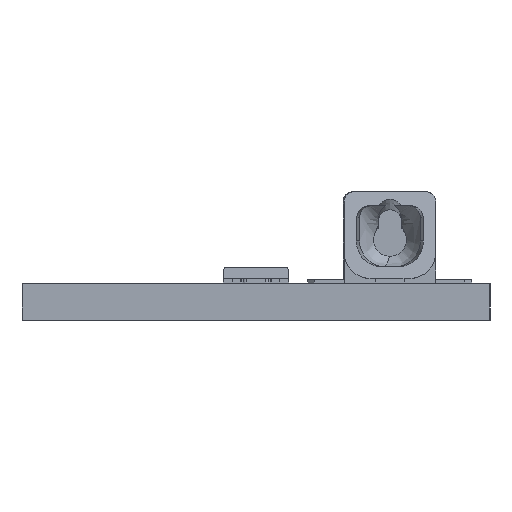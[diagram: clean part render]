
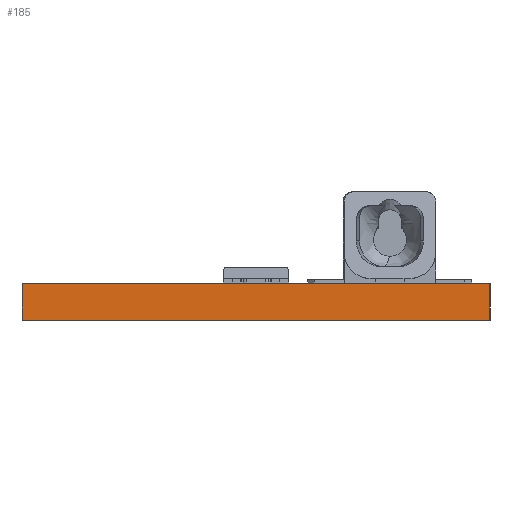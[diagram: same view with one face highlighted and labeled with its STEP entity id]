
A CAD part, left-side view. The second image highlights one B-rep face of the part: STEP entity #185.
In plain terms, the highlighted planar face has unit normal (-1, 0, 0).
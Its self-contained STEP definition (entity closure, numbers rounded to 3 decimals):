
#185 = ADVANCED_FACE('',(#186),#220,.F.);
#186 = FACE_BOUND('',#187,.F.);
#187 = EDGE_LOOP('',(#188,#198,#206,#214));
#188 = ORIENTED_EDGE('',*,*,#189,.T.);
#189 = EDGE_CURVE('',#190,#192,#194,.T.);
#190 = VERTEX_POINT('',#191);
#191 = CARTESIAN_POINT('',(0.,20.,0.));
#192 = VERTEX_POINT('',#193);
#193 = CARTESIAN_POINT('',(0.,20.,1.56));
#194 = LINE('',#195,#196);
#195 = CARTESIAN_POINT('',(0.,20.,0.));
#196 = VECTOR('',#197,1.);
#197 = DIRECTION('',(0.,0.,1.));
#198 = ORIENTED_EDGE('',*,*,#199,.T.);
#199 = EDGE_CURVE('',#192,#200,#202,.T.);
#200 = VERTEX_POINT('',#201);
#201 = CARTESIAN_POINT('',(0.,0.,1.56));
#202 = LINE('',#203,#204);
#203 = CARTESIAN_POINT('',(0.,20.,1.56));
#204 = VECTOR('',#205,1.);
#205 = DIRECTION('',(0.,-1.,0.));
#206 = ORIENTED_EDGE('',*,*,#207,.F.);
#207 = EDGE_CURVE('',#208,#200,#210,.T.);
#208 = VERTEX_POINT('',#209);
#209 = CARTESIAN_POINT('',(0.,0.,0.));
#210 = LINE('',#211,#212);
#211 = CARTESIAN_POINT('',(0.,0.,0.));
#212 = VECTOR('',#213,1.);
#213 = DIRECTION('',(0.,0.,1.));
#214 = ORIENTED_EDGE('',*,*,#215,.F.);
#215 = EDGE_CURVE('',#190,#208,#216,.T.);
#216 = LINE('',#217,#218);
#217 = CARTESIAN_POINT('',(0.,20.,0.));
#218 = VECTOR('',#219,1.);
#219 = DIRECTION('',(0.,-1.,0.));
#220 = PLANE('',#221);
#221 = AXIS2_PLACEMENT_3D('',#222,#223,#224);
#222 = CARTESIAN_POINT('',(0.,20.,0.));
#223 = DIRECTION('',(1.,0.,-0.));
#224 = DIRECTION('',(0.,-1.,0.));
